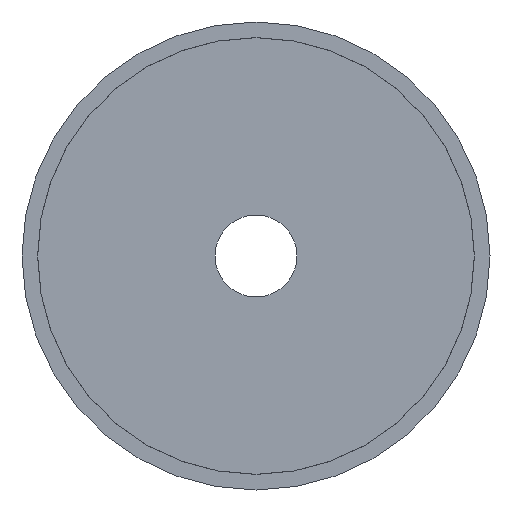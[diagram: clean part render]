
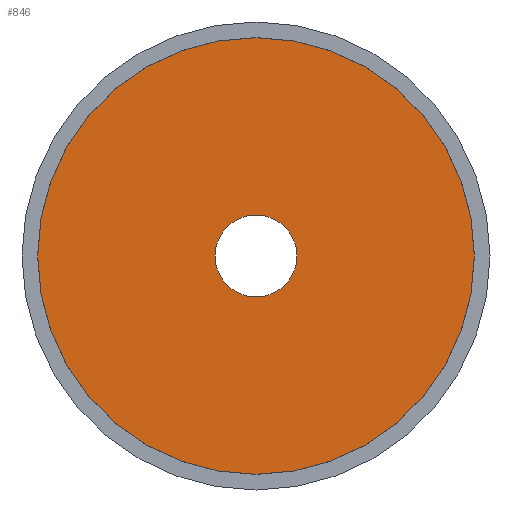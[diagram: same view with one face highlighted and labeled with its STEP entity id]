
A CAD part, front view. The second image highlights one B-rep face of the part: STEP entity #846.
In plain terms, the highlighted planar face has unit normal (0, -1, 0).
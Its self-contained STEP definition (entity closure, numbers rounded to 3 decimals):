
#10 = CARTESIAN_POINT ( 'NONE',  ( 0., -15., 0. ) ) ;
#54 = DIRECTION ( 'NONE',  ( 0., -1., 0. ) ) ;
#83 = VERTEX_POINT ( 'NONE', #139 ) ;
#90 = DIRECTION ( 'NONE',  ( -1., 0., 0. ) ) ;
#100 = CIRCLE ( 'NONE', #585, 27.99 ) ;
#103 = DIRECTION ( 'NONE',  ( 0., 0., -1. ) ) ;
#128 = EDGE_LOOP ( 'NONE', ( #558, #551 ) ) ;
#139 = CARTESIAN_POINT ( 'NONE',  ( 5.25, -15., 0. ) ) ;
#142 = DIRECTION ( 'NONE',  ( -1., 0., 0. ) ) ;
#145 = EDGE_CURVE ( 'NONE', #547, #83, #377, .T. ) ;
#175 = AXIS2_PLACEMENT_3D ( 'NONE', #510, #366, #945 ) ;
#230 = CARTESIAN_POINT ( 'NONE',  ( 0., -15., 0. ) ) ;
#282 = CARTESIAN_POINT ( 'NONE',  ( -30., -15., 0. ) ) ;
#350 = CIRCLE ( 'NONE', #542, 5.25 ) ;
#364 = FACE_OUTER_BOUND ( 'NONE', #128, .T. ) ;
#366 = DIRECTION ( 'NONE',  ( 0., -1., 0. ) ) ;
#377 = CIRCLE ( 'NONE', #466, 5.25 ) ;
#407 = CIRCLE ( 'NONE', #175, 27.99 ) ;
#442 = VERTEX_POINT ( 'NONE', #656 ) ;
#466 = AXIS2_PLACEMENT_3D ( 'NONE', #734, #664, #142 ) ;
#486 = EDGE_CURVE ( 'NONE', #751, #442, #407, .T. ) ;
#489 = ORIENTED_EDGE ( 'NONE', *, *, #562, .T. ) ;
#493 = EDGE_LOOP ( 'NONE', ( #530, #489 ) ) ;
#510 = CARTESIAN_POINT ( 'NONE',  ( 0., -15., 0. ) ) ;
#520 = DIRECTION ( 'NONE',  ( 0., 1., 0. ) ) ;
#530 = ORIENTED_EDGE ( 'NONE', *, *, #145, .T. ) ;
#542 = AXIS2_PLACEMENT_3D ( 'NONE', #10, #520, #90 ) ;
#547 = VERTEX_POINT ( 'NONE', #666 ) ;
#551 = ORIENTED_EDGE ( 'NONE', *, *, #639, .T. ) ;
#558 = ORIENTED_EDGE ( 'NONE', *, *, #486, .T. ) ;
#562 = EDGE_CURVE ( 'NONE', #83, #547, #350, .T. ) ;
#567 = FACE_BOUND ( 'NONE', #493, .T. ) ;
#585 = AXIS2_PLACEMENT_3D ( 'NONE', #230, #907, #103 ) ;
#620 = CARTESIAN_POINT ( 'NONE',  ( 0., -15., -27.99 ) ) ;
#639 = EDGE_CURVE ( 'NONE', #442, #751, #100, .T. ) ;
#647 = PLANE ( 'NONE',  #886 ) ;
#656 = CARTESIAN_POINT ( 'NONE',  ( 0., -15., 27.99 ) ) ;
#664 = DIRECTION ( 'NONE',  ( 0., 1., 0. ) ) ;
#666 = CARTESIAN_POINT ( 'NONE',  ( -5.25, -15., 0. ) ) ;
#734 = CARTESIAN_POINT ( 'NONE',  ( 0., -15., 0. ) ) ;
#751 = VERTEX_POINT ( 'NONE', #620 ) ;
#781 = DIRECTION ( 'NONE',  ( 1., 0., 0. ) ) ;
#846 = ADVANCED_FACE ( 'NONE', ( #567, #364 ), #647, .T. ) ;
#886 = AXIS2_PLACEMENT_3D ( 'NONE', #282, #54, #781 ) ;
#907 = DIRECTION ( 'NONE',  ( 0., -1., 0. ) ) ;
#945 = DIRECTION ( 'NONE',  ( 0., 0., -1. ) ) ;
